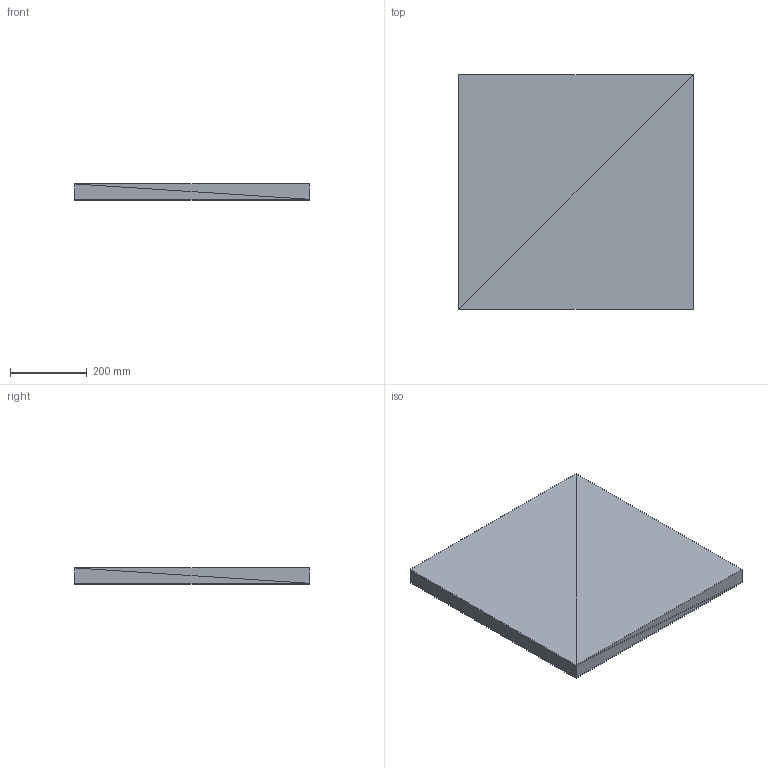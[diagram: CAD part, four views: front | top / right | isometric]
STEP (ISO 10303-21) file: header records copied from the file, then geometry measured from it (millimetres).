
FILE_DESCRIPTION(('ISINAC STEP AP214'),'2;1');
FILE_NAME('ISINAC_C.610_40mm_IMANTADA','2026-05-03T10:49:19',('ISINAC'),('www.isinac.com'),'ISINAC BIM Generator 1.0','','');
FILE_SCHEMA(('AUTOMOTIVE_DESIGN'));
Length unit declared in the file: millimetre
Products named in the file (1): ISINAC_C.610_40mm_IMANTADA
Bounding box: 610 x 610 x 42 mm (x, y, z)
Surface area: 1590880 mm2 (no closed solid volume)
Topology: 0 solids, 24 shells, 24 faces, 72 edges, 72 vertices
Faces by surface type: plane 24
Entity records: 277 total; most frequent: CARTESIAN_POINT 96, DIRECTION 48, POLY_LOOP 24, FACE_OUTER_BOUND 24, AXIS2_PLACEMENT_3D 24, PLANE 24, FACE_SURFACE 24, CLOSED_SHELL 1
